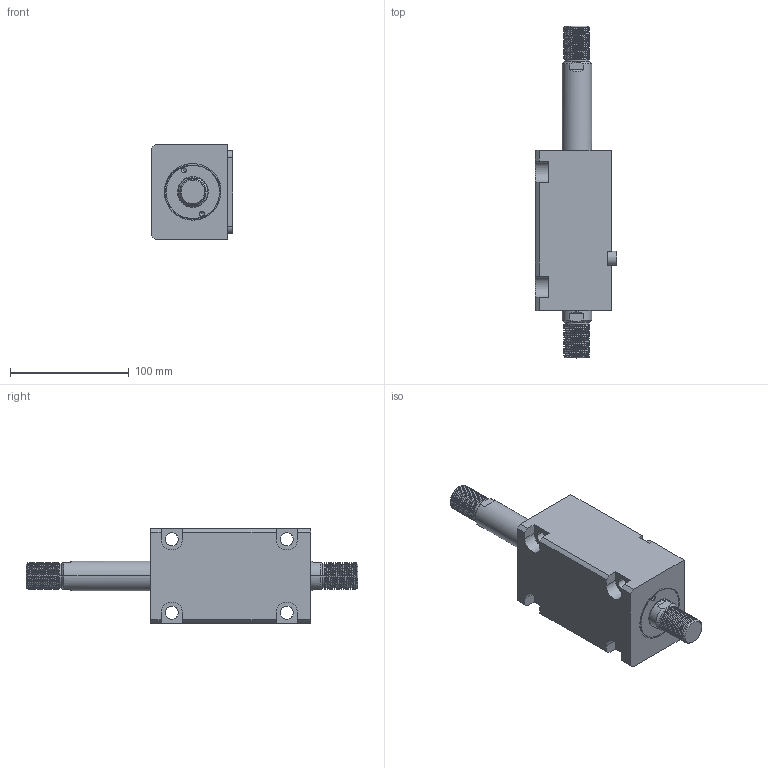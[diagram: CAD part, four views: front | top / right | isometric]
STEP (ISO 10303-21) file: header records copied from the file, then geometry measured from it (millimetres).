
FILE_DESCRIPTION (( 'STEP AP214' ), '1' );
FILE_NAME ('chtb-lwm40x65w_asm.STEP', '2018-05-31T00:47:16', ( 'Windows' ), ( 'Microsoft' ), 'SwSTEP 2.0', 'SolidWorks 2015', '' );
FILE_SCHEMA (( 'AUTOMOTIVE_DESIGN' ));
Length unit declared in the file: millimetre
Products named in the file (5): CHTB-SW40X65NHSG; CHTB-SD40QG; CHTB-LWM40X65NBT; CHTB-LA40PJ; chtb-lwm40x65w_asm
Assembly tree (4 placements, depth 2):
  chtb-lwm40x65w_asm
    CHTB-LA40PJ
    CHTB-LWM40X65NBT
    CHTB-SD40QG
    CHTB-SW40X65NHSG
Bounding box: 68.5 x 280 x 80 mm (x, y, z)
Volume: 670297.7 mm3; surface area: 113369.4 mm2
Topology: 4 solids, 4 shells, 252 faces, 699 edges, 465 vertices
Faces by surface type: cylinder 152, plane 57, bspline 18, cone 13, torus 12
Entity records: 17373 total; most frequent: CARTESIAN_POINT 11260, ORIENTED_EDGE 1386, DIRECTION 1092, EDGE_CURVE 693, VERTEX_POINT 465, AXIS2_PLACEMENT_3D 419, EDGE_LOOP 284, LINE 254
